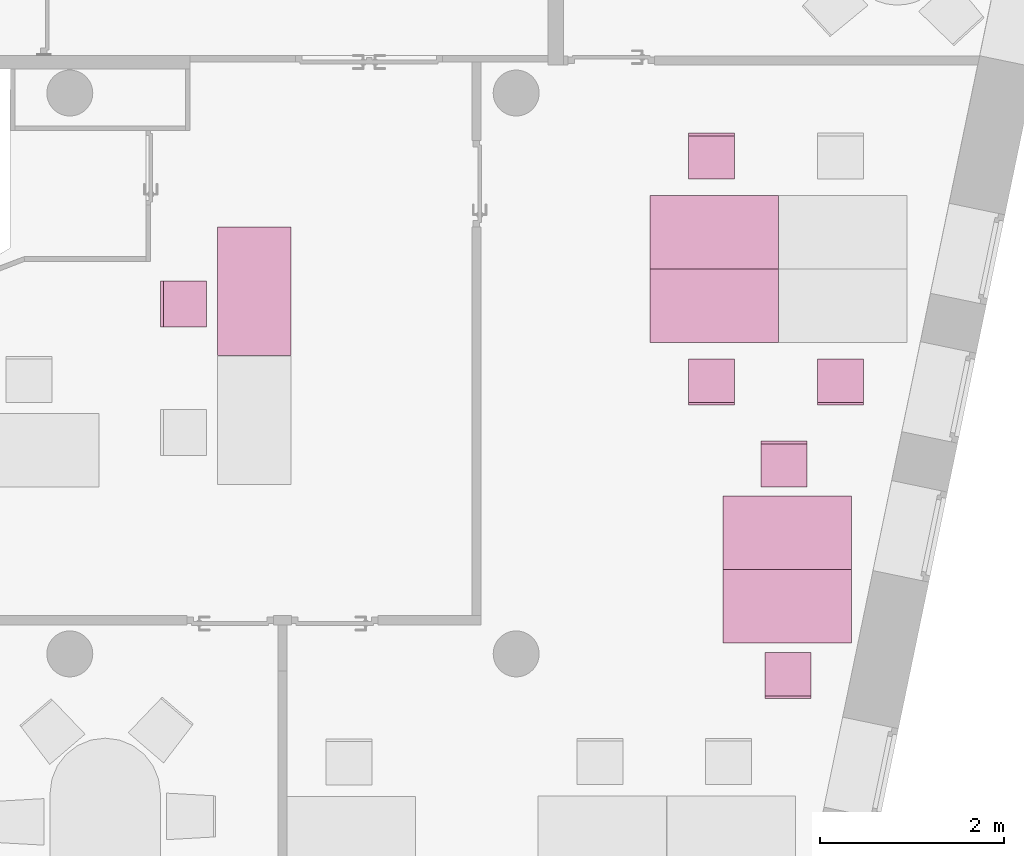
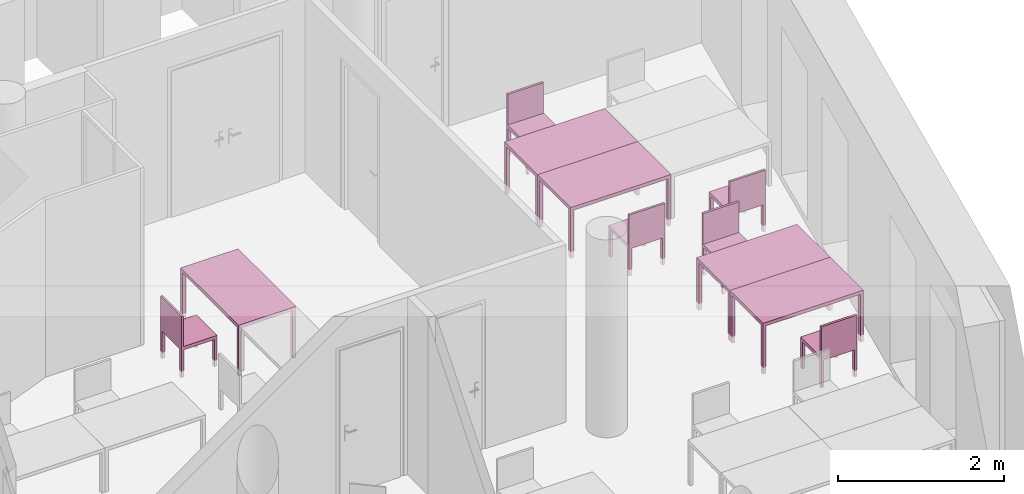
"""IFC4 building model written with IfcOpenShell, lengths in metres."""

from ifc_helpers import new_model, entity, si_unit, converted_unit, derived_unit, frame, origin, place, context, subcontext, project, spatial, faceted_brep, element, save


model = new_model("IFC4")

# Units and contexts
model_context = context("Model", 3, precision=1e-05, world=origin())
body_context = subcontext(model_context, "Body", "Model", "MODEL_VIEW")
ifc_project = project(units=[si_unit("LENGTHUNIT", "METRE"), si_unit("AREAUNIT", "SQUARE_METRE"), si_unit("VOLUMEUNIT", "CUBIC_METRE"), si_unit("MASSUNIT", "GRAM", prefix="KILO"), converted_unit("PLANEANGLEUNIT", "DEGREE", entity("IfcPlaneAngleMeasure", 0.0174532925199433), si_unit("PLANEANGLEUNIT", "RADIAN"), dimensions=[0, 0, 0, 0, 0, 0, 0]), derived_unit("THERMALTRANSMITTANCEUNIT", [(si_unit("POWERUNIT", "WATT"), 1), (si_unit("THERMODYNAMICTEMPERATUREUNIT", "KELVIN"), -1), (si_unit("LENGTHUNIT", "METRE"), -2)]), derived_unit("VOLUMETRICFLOWRATEUNIT", [(si_unit("LENGTHUNIT", "METRE"), 3), (converted_unit("TIMEUNIT", "hour", entity("IfcTimeMeasure", 3600.0), si_unit("TIMEUNIT", "SECOND"), dimensions=[0, 0, 1, 0, 0, 0, 0]), -1), (si_unit("LENGTHUNIT", "METRE"), -1)])], contexts=[model_context])

# Building, storeys
building_placement = place(None, origin())
building = spatial("IfcBuilding", under=ifc_project, at=building_placement, Name="HABITATGE PLURIFAMILIAR", CompositionType="ELEMENT")
storey_1_placement = place(building_placement, frame((0.0, 0.0, 9.26)))
storey_1 = spatial("IfcBuildingStorey", under=building, at=storey_1_placement, Name="PLANTA SEGONA", CompositionType="ELEMENT", Elevation=9.26)
storey_2_placement = place(storey_1_placement, frame((0.0, 0.0, 6.25)))
storey_2 = spatial("IfcBuildingStorey", under=storey_1, at=storey_2_placement, Name="NOU", CompositionType="PARTIAL")

# Furniture
furniture_1_placement = place(storey_2_placement, frame((422.446738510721, 21.1843304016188, -6.3499999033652)))
element("IfcFurniture", 1, at=furniture_1_placement, inside=storey_2, Name="Taula 140X80_P2", context=body_context, shape_type="Brep", body=[
    faceted_brep([(0.04375, 0.750069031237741, 0.0), (0.04375, 0.800069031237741, 0.0), (0.0, 0.800069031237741, 0.0), (0.0, 0.750069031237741, 0.0), (0.04375, 0.800069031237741, 0.7), (0.04375, 0.750069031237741, 0.7), (0.0, 0.750069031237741, 0.7), (0.0, 0.800069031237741, 0.7)], [[[0, 1, 2, 3]], [[4, 5, 6, 7]], [[1, 0, 5, 4]], [[2, 1, 4, 7]], [[3, 2, 7, 6]], [[0, 3, 6, 5]]], orient=[[False], [False], [False], [False], [False], [False]]),
    faceted_brep([(0.04375, 0.0, 0.0), (0.04375, 0.05, 0.0), (0.0, 0.05, 0.0), (0.0, 0.0, 0.0), (0.04375, 0.05, 0.7), (0.04375, 0.0, 0.7), (0.0, 0.0, 0.7), (0.0, 0.05, 0.7)], [[[0, 1, 2, 3]], [[4, 5, 6, 7]], [[1, 0, 5, 4]], [[2, 1, 4, 7]], [[3, 2, 7, 6]], [[0, 3, 6, 5]]], orient=[[False], [False], [False], [False], [False], [False]]),
    faceted_brep([(1.39732768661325, 0.0, 0.7), (1.39732768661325, 0.800069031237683, 0.7), (0.0, 0.800069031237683, 0.7), (0.0, 0.0, 0.7), (1.39732768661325, 0.800069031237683, 0.75), (1.39732768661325, 0.0, 0.75), (0.0, 0.0, 0.75), (0.0, 0.800069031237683, 0.75)], [[[0, 1, 2, 3]], [[4, 5, 6, 7]], [[1, 0, 5, 4]], [[2, 1, 4, 7]], [[3, 2, 7, 6]], [[0, 3, 6, 5]]], orient=[[False], [False], [False], [False], [False], [False]]),
    faceted_brep([(1.39732768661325, 0.750069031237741, 0.0), (1.39732768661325, 0.800069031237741, 0.0), (1.35357768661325, 0.800069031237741, 0.0), (1.35357768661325, 0.750069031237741, 0.0), (1.39732768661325, 0.800069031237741, 0.7), (1.39732768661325, 0.750069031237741, 0.7), (1.35357768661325, 0.750069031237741, 0.7), (1.35357768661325, 0.800069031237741, 0.7)], [[[0, 1, 2, 3]], [[4, 5, 6, 7]], [[1, 0, 5, 4]], [[2, 1, 4, 7]], [[3, 2, 7, 6]], [[0, 3, 6, 5]]], orient=[[False], [False], [False], [False], [False], [False]]),
    faceted_brep([(1.39732768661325, 0.0, 0.0), (1.39732768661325, 0.05, 0.0), (1.35357768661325, 0.05, 0.0), (1.35357768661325, 0.0, 0.0), (1.39732768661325, 0.05, 0.7), (1.39732768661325, 0.0, 0.7), (1.35357768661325, 0.0, 0.7), (1.35357768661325, 0.05, 0.7)], [[[0, 1, 2, 3]], [[4, 5, 6, 7]], [[1, 0, 5, 4]], [[2, 1, 4, 7]], [[3, 2, 7, 6]], [[0, 3, 6, 5]]], orient=[[False], [False], [False], [False], [False], [False]]),
])
furniture_2_placement = place(storey_2_placement, frame((422.446738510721, 21.9843994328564, -6.3499999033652)))
element("IfcFurniture", 2, at=furniture_2_placement, inside=storey_2, Name="Taula 140X80_P2", context=body_context, shape_type="Brep", body=[
    faceted_brep([(0.04375, 0.05, 0.0), (0.0, 0.05, 0.0), (0.0, 0.0, 0.0), (0.04375, 0.0, 0.0), (0.04375, 0.0, 0.7), (0.0, 0.0, 0.7), (0.0, 0.05, 0.7), (0.04375, 0.05, 0.7)], [[[0, 1, 2, 3]], [[4, 5, 6, 7]], [[3, 4, 7, 0]], [[2, 5, 4, 3]], [[1, 6, 5, 2]], [[0, 7, 6, 1]]], orient=[[False], [False], [False], [False], [False], [False]]),
    faceted_brep([(0.04375, 0.800069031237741, 0.0), (0.0, 0.800069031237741, 0.0), (0.0, 0.750069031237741, 0.0), (0.04375, 0.750069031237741, 0.0), (0.04375, 0.750069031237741, 0.7), (0.0, 0.750069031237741, 0.7), (0.0, 0.800069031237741, 0.7), (0.04375, 0.800069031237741, 0.7)], [[[0, 1, 2, 3]], [[4, 5, 6, 7]], [[3, 4, 7, 0]], [[2, 5, 4, 3]], [[1, 6, 5, 2]], [[0, 7, 6, 1]]], orient=[[False], [False], [False], [False], [False], [False]]),
    faceted_brep([(1.39732768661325, 0.800069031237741, 0.7), (0.0, 0.800069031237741, 0.7), (0.0, 0.0, 0.7), (1.39732768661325, 0.0, 0.7), (1.39732768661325, 0.0, 0.75), (0.0, 0.0, 0.75), (0.0, 0.800069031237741, 0.75), (1.39732768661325, 0.800069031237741, 0.75)], [[[0, 1, 2, 3]], [[4, 5, 6, 7]], [[3, 4, 7, 0]], [[2, 5, 4, 3]], [[1, 6, 5, 2]], [[0, 7, 6, 1]]], orient=[[False], [False], [False], [False], [False], [False]]),
    faceted_brep([(1.39732768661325, 0.05, 0.0), (1.35357768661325, 0.05, 0.0), (1.35357768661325, 0.0, 0.0), (1.39732768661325, 0.0, 0.0), (1.39732768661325, 0.0, 0.7), (1.35357768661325, 0.0, 0.7), (1.35357768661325, 0.05, 0.7), (1.39732768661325, 0.05, 0.7)], [[[0, 1, 2, 3]], [[4, 5, 6, 7]], [[3, 4, 7, 0]], [[2, 5, 4, 3]], [[1, 6, 5, 2]], [[0, 7, 6, 1]]], orient=[[False], [False], [False], [False], [False], [False]]),
    faceted_brep([(1.39732768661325, 0.800069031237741, 0.0), (1.35357768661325, 0.800069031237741, 0.0), (1.35357768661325, 0.750069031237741, 0.0), (1.39732768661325, 0.750069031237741, 0.0), (1.39732768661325, 0.750069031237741, 0.7), (1.35357768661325, 0.750069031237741, 0.7), (1.35357768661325, 0.800069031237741, 0.7), (1.39732768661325, 0.800069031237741, 0.7)], [[[0, 1, 2, 3]], [[4, 5, 6, 7]], [[3, 4, 7, 0]], [[2, 5, 4, 3]], [[1, 6, 5, 2]], [[0, 7, 6, 1]]], orient=[[False], [False], [False], [False], [False], [False]]),
])
furniture_3_placement = place(storey_2_placement, frame((422.868725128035, 22.9635842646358, -6.34505686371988)))
element("IfcFurniture", 3, at=furniture_3_placement, inside=storey_2, Name="Cadira d'Oficina_P2", context=body_context, shape_type="Brep", body=[
    faceted_brep([(0.5, 0.0, 0.4), (0.5, 0.500000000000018, 0.4), (0.0, 0.5, 0.4), (0.0, 0.0, 0.4), (0.5, 0.500000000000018, 0.45), (0.5, 0.0, 0.45), (0.0, 0.0, 0.45), (0.0, 0.5, 0.45)], [[[0, 1, 2, 3]], [[4, 5, 6, 7]], [[1, 0, 5, 4]], [[2, 1, 4, 7]], [[3, 2, 7, 6]], [[0, 3, 6, 5]]], orient=[[False], [False], [False], [False], [False], [False]]),
    faceted_brep([(0.0, 0.46, 0.0), (0.04, 0.46, 0.0), (0.04, 0.5, 0.0), (0.0, 0.5, 0.0), (0.04, 0.46, 0.4), (0.0, 0.46, 0.4), (0.0, 0.5, 0.4), (0.04, 0.5, 0.4)], [[[0, 1, 2, 3]], [[4, 5, 6, 7]], [[1, 0, 5, 4]], [[2, 1, 4, 7]], [[3, 2, 7, 6]], [[0, 3, 6, 5]]], orient=[[False], [False], [False], [False], [False], [False]]),
    faceted_brep([(0.0, 0.0, 0.0), (0.04, 0.0, 0.0), (0.04, 0.04, 0.0), (0.0, 0.04, 0.0), (0.04, 0.0, 0.4), (0.0, 0.0, 0.4), (0.0, 0.04, 0.4), (0.04, 0.04, 0.4)], [[[0, 1, 2, 3]], [[4, 5, 6, 7]], [[1, 0, 5, 4]], [[2, 1, 4, 7]], [[3, 2, 7, 6]], [[0, 3, 6, 5]]], orient=[[False], [False], [False], [False], [False], [False]]),
    faceted_brep([(0.46, 0.460000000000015, 0.0), (0.5, 0.460000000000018, 0.0), (0.5, 0.500000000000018, 0.0), (0.46, 0.500000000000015, 0.0), (0.5, 0.460000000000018, 0.4), (0.46, 0.460000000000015, 0.4), (0.46, 0.500000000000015, 0.4), (0.5, 0.500000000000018, 0.4)], [[[0, 1, 2, 3]], [[4, 5, 6, 7]], [[1, 0, 5, 4]], [[2, 1, 4, 7]], [[3, 2, 7, 6]], [[0, 3, 6, 5]]], orient=[[False], [False], [False], [False], [False], [False]]),
    faceted_brep([(0.46, 0.0, 0.0), (0.5, 0.0, 0.0), (0.5, 0.0400000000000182, 0.0), (0.46, 0.0400000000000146, 0.0), (0.5, 0.0, 0.4), (0.46, 0.0, 0.4), (0.46, 0.0400000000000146, 0.4), (0.5, 0.0400000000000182, 0.4)], [[[0, 1, 2, 3]], [[4, 5, 6, 7]], [[1, 0, 5, 4]], [[2, 1, 4, 7]], [[3, 2, 7, 6]], [[0, 3, 6, 5]]], orient=[[False], [False], [False], [False], [False], [False]]),
    faceted_brep([(0.0, 0.47, 0.45), (0.5, 0.470000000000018, 0.45), (0.5, 0.500000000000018, 0.45), (0.0, 0.5, 0.45), (0.5, 0.470000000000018, 0.9), (0.0, 0.47, 0.9), (0.0, 0.5, 0.9), (0.5, 0.500000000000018, 0.9)], [[[0, 1, 2, 3]], [[4, 5, 6, 7]], [[1, 0, 5, 4]], [[2, 1, 4, 7]], [[3, 2, 7, 6]], [[0, 3, 6, 5]]], orient=[[False], [False], [False], [False], [False], [False]]),
])
furniture_4_placement = place(storey_2_placement, frame((424.268725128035, 20.5052146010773, -6.34632642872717)))
element("IfcFurniture", 4, at=furniture_4_placement, inside=storey_2, Name="Cadira d'Oficina_P2", context=body_context, shape_type="Brep", body=[
    faceted_brep([(0.5, 0.5, 0.4), (0.0, 0.5, 0.4), (0.0, 0.0, 0.4), (0.5, 0.0, 0.4), (0.5, 0.0, 0.45), (0.0, 0.0, 0.45), (0.0, 0.5, 0.45), (0.5, 0.5, 0.45)], [[[0, 1, 2, 3]], [[4, 5, 6, 7]], [[3, 4, 7, 0]], [[2, 5, 4, 3]], [[1, 6, 5, 2]], [[0, 7, 6, 1]]], orient=[[False], [False], [False], [False], [False], [False]]),
    faceted_brep([(0.0, 0.04, 0.0), (0.0, 0.0, 0.0), (0.04, 0.0, 0.0), (0.04, 0.04, 0.0), (0.04, 0.04, 0.4), (0.04, 0.0, 0.4), (0.0, 0.0, 0.4), (0.0, 0.04, 0.4)], [[[0, 1, 2, 3]], [[4, 5, 6, 7]], [[3, 4, 7, 0]], [[2, 5, 4, 3]], [[1, 6, 5, 2]], [[0, 7, 6, 1]]], orient=[[False], [False], [False], [False], [False], [False]]),
    faceted_brep([(0.0, 0.5, 0.0), (0.0, 0.46, 0.0), (0.04, 0.46, 0.0), (0.04, 0.5, 0.0), (0.04, 0.5, 0.4), (0.04, 0.46, 0.4), (0.0, 0.46, 0.4), (0.0, 0.5, 0.4)], [[[0, 1, 2, 3]], [[4, 5, 6, 7]], [[3, 4, 7, 0]], [[2, 5, 4, 3]], [[1, 6, 5, 2]], [[0, 7, 6, 1]]], orient=[[False], [False], [False], [False], [False], [False]]),
    faceted_brep([(0.46, 0.04, 0.0), (0.46, 0.0, 0.0), (0.5, 0.0, 0.0), (0.5, 0.04, 0.0), (0.5, 0.04, 0.4), (0.5, 0.0, 0.4), (0.46, 0.0, 0.4), (0.46, 0.04, 0.4)], [[[0, 1, 2, 3]], [[4, 5, 6, 7]], [[3, 4, 7, 0]], [[2, 5, 4, 3]], [[1, 6, 5, 2]], [[0, 7, 6, 1]]], orient=[[False], [False], [False], [False], [False], [False]]),
    faceted_brep([(0.46, 0.5, 0.0), (0.46, 0.46, 0.0), (0.5, 0.46, 0.0), (0.5, 0.5, 0.0), (0.5, 0.5, 0.4), (0.5, 0.46, 0.4), (0.46, 0.46, 0.4), (0.46, 0.5, 0.4)], [[[0, 1, 2, 3]], [[4, 5, 6, 7]], [[3, 4, 7, 0]], [[2, 5, 4, 3]], [[1, 6, 5, 2]], [[0, 7, 6, 1]]], orient=[[False], [False], [False], [False], [False], [False]]),
    faceted_brep([(0.0, 0.03, 0.45), (0.0, 0.0, 0.45), (0.5, 0.0, 0.45), (0.5, 0.03, 0.45), (0.5, 0.03, 0.9), (0.5, 0.0, 0.9), (0.0, 0.0, 0.9), (0.0, 0.03, 0.9)], [[[0, 1, 2, 3]], [[4, 5, 6, 7]], [[3, 4, 7, 0]], [[2, 5, 4, 3]], [[1, 6, 5, 2]], [[0, 7, 6, 1]]], orient=[[False], [False], [False], [False], [False], [False]]),
])
furniture_5_placement = place(storey_2_placement, frame((422.868725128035, 20.5052146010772, -6.34632642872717)))
element("IfcFurniture", 5, at=furniture_5_placement, inside=storey_2, Name="Cadira d'Oficina_P2", context=body_context, shape_type="Brep", body=[
    faceted_brep([(0.5, 0.5, 0.4), (0.0, 0.5, 0.4), (0.0, 0.0, 0.4), (0.5, 0.0, 0.4), (0.5, 0.0, 0.45), (0.0, 0.0, 0.45), (0.0, 0.5, 0.45), (0.5, 0.5, 0.45)], [[[0, 1, 2, 3]], [[4, 5, 6, 7]], [[3, 4, 7, 0]], [[2, 5, 4, 3]], [[1, 6, 5, 2]], [[0, 7, 6, 1]]], orient=[[False], [False], [False], [False], [False], [False]]),
    faceted_brep([(0.0, 0.04, 0.0), (0.0, 0.0, 0.0), (0.04, 0.0, 0.0), (0.04, 0.04, 0.0), (0.04, 0.04, 0.4), (0.04, 0.0, 0.4), (0.0, 0.0, 0.4), (0.0, 0.04, 0.4)], [[[0, 1, 2, 3]], [[4, 5, 6, 7]], [[3, 4, 7, 0]], [[2, 5, 4, 3]], [[1, 6, 5, 2]], [[0, 7, 6, 1]]], orient=[[False], [False], [False], [False], [False], [False]]),
    faceted_brep([(0.0, 0.5, 0.0), (0.0, 0.46, 0.0), (0.04, 0.46, 0.0), (0.04, 0.5, 0.0), (0.04, 0.5, 0.4), (0.04, 0.46, 0.4), (0.0, 0.46, 0.4), (0.0, 0.5, 0.4)], [[[0, 1, 2, 3]], [[4, 5, 6, 7]], [[3, 4, 7, 0]], [[2, 5, 4, 3]], [[1, 6, 5, 2]], [[0, 7, 6, 1]]], orient=[[False], [False], [False], [False], [False], [False]]),
    faceted_brep([(0.46, 0.04, 0.0), (0.46, 0.0, 0.0), (0.5, 0.0, 0.0), (0.5, 0.04, 0.0), (0.5, 0.04, 0.4), (0.5, 0.0, 0.4), (0.46, 0.0, 0.4), (0.46, 0.04, 0.4)], [[[0, 1, 2, 3]], [[4, 5, 6, 7]], [[3, 4, 7, 0]], [[2, 5, 4, 3]], [[1, 6, 5, 2]], [[0, 7, 6, 1]]], orient=[[False], [False], [False], [False], [False], [False]]),
    faceted_brep([(0.46, 0.5, 0.0), (0.46, 0.46, 0.0), (0.5, 0.46, 0.0), (0.5, 0.5, 0.0), (0.5, 0.5, 0.4), (0.5, 0.46, 0.4), (0.46, 0.46, 0.4), (0.46, 0.5, 0.4)], [[[0, 1, 2, 3]], [[4, 5, 6, 7]], [[3, 4, 7, 0]], [[2, 5, 4, 3]], [[1, 6, 5, 2]], [[0, 7, 6, 1]]], orient=[[False], [False], [False], [False], [False], [False]]),
    faceted_brep([(0.0, 0.03, 0.45), (0.0, 0.0, 0.45), (0.5, 0.0, 0.45), (0.5, 0.03, 0.45), (0.5, 0.03, 0.9), (0.5, 0.0, 0.9), (0.0, 0.0, 0.9), (0.0, 0.03, 0.9)], [[[0, 1, 2, 3]], [[4, 5, 6, 7]], [[3, 4, 7, 0]], [[2, 5, 4, 3]], [[1, 6, 5, 2]], [[0, 7, 6, 1]]], orient=[[False], [False], [False], [False], [False], [False]]),
])
furniture_6_placement = place(storey_2_placement, frame((423.239102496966, 18.7193335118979, -6.3499999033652)))
element("IfcFurniture", 6, at=furniture_6_placement, inside=storey_2, Name="Taula 140X80_P2", context=body_context, shape_type="Brep", body=[
    faceted_brep([(0.04375, 0.05, 0.0), (0.0, 0.05, 0.0), (0.0, 0.0, 0.0), (0.04375, 0.0, 0.0), (0.04375, 0.0, 0.7), (0.0, 0.0, 0.7), (0.0, 0.05, 0.7), (0.04375, 0.05, 0.7)], [[[0, 1, 2, 3]], [[4, 5, 6, 7]], [[3, 4, 7, 0]], [[2, 5, 4, 3]], [[1, 6, 5, 2]], [[0, 7, 6, 1]]], orient=[[False], [False], [False], [False], [False], [False]]),
    faceted_brep([(0.04375, 0.800069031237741, 0.0), (0.0, 0.800069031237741, 0.0), (0.0, 0.750069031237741, 0.0), (0.04375, 0.750069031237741, 0.0), (0.04375, 0.750069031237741, 0.7), (0.0, 0.750069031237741, 0.7), (0.0, 0.800069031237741, 0.7), (0.04375, 0.800069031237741, 0.7)], [[[0, 1, 2, 3]], [[4, 5, 6, 7]], [[3, 4, 7, 0]], [[2, 5, 4, 3]], [[1, 6, 5, 2]], [[0, 7, 6, 1]]], orient=[[False], [False], [False], [False], [False], [False]]),
    faceted_brep([(1.39732768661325, 0.800069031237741, 0.7), (0.0, 0.800069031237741, 0.7), (0.0, 0.0, 0.7), (1.39732768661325, 0.0, 0.7), (1.39732768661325, 0.0, 0.75), (0.0, 0.0, 0.75), (0.0, 0.800069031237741, 0.75), (1.39732768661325, 0.800069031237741, 0.75)], [[[0, 1, 2, 3]], [[4, 5, 6, 7]], [[3, 4, 7, 0]], [[2, 5, 4, 3]], [[1, 6, 5, 2]], [[0, 7, 6, 1]]], orient=[[False], [False], [False], [False], [False], [False]]),
    faceted_brep([(1.39732768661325, 0.05, 0.0), (1.35357768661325, 0.05, 0.0), (1.35357768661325, 0.0, 0.0), (1.39732768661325, 0.0, 0.0), (1.39732768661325, 0.0, 0.7), (1.35357768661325, 0.0, 0.7), (1.35357768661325, 0.05, 0.7), (1.39732768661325, 0.05, 0.7)], [[[0, 1, 2, 3]], [[4, 5, 6, 7]], [[3, 4, 7, 0]], [[2, 5, 4, 3]], [[1, 6, 5, 2]], [[0, 7, 6, 1]]], orient=[[False], [False], [False], [False], [False], [False]]),
    faceted_brep([(1.39732768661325, 0.800069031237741, 0.0), (1.35357768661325, 0.800069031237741, 0.0), (1.35357768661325, 0.750069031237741, 0.0), (1.39732768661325, 0.750069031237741, 0.0), (1.39732768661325, 0.750069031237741, 0.7), (1.35357768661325, 0.750069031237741, 0.7), (1.35357768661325, 0.800069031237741, 0.7), (1.39732768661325, 0.800069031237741, 0.7)], [[[0, 1, 2, 3]], [[4, 5, 6, 7]], [[3, 4, 7, 0]], [[2, 5, 4, 3]], [[1, 6, 5, 2]], [[0, 7, 6, 1]]], orient=[[False], [False], [False], [False], [False], [False]]),
])
furniture_7_placement = place(storey_2_placement, frame((423.239102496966, 17.9192644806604, -6.3499999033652)))
element("IfcFurniture", 7, at=furniture_7_placement, inside=storey_2, Name="Taula 140X80_P2", context=body_context, shape_type="Brep", body=[
    faceted_brep([(0.04375, 0.750069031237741, 0.0), (0.04375, 0.800069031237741, 0.0), (0.0, 0.800069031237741, 0.0), (0.0, 0.750069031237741, 0.0), (0.04375, 0.800069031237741, 0.7), (0.04375, 0.750069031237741, 0.7), (0.0, 0.750069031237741, 0.7), (0.0, 0.800069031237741, 0.7)], [[[0, 1, 2, 3]], [[4, 5, 6, 7]], [[1, 0, 5, 4]], [[2, 1, 4, 7]], [[3, 2, 7, 6]], [[0, 3, 6, 5]]], orient=[[False], [False], [False], [False], [False], [False]]),
    faceted_brep([(0.04375, 0.0, 0.0), (0.04375, 0.05, 0.0), (0.0, 0.05, 0.0), (0.0, 0.0, 0.0), (0.04375, 0.05, 0.7), (0.04375, 0.0, 0.7), (0.0, 0.0, 0.7), (0.0, 0.05, 0.7)], [[[0, 1, 2, 3]], [[4, 5, 6, 7]], [[1, 0, 5, 4]], [[2, 1, 4, 7]], [[3, 2, 7, 6]], [[0, 3, 6, 5]]], orient=[[False], [False], [False], [False], [False], [False]]),
    faceted_brep([(1.39732768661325, 0.0, 0.7), (1.39732768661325, 0.800069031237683, 0.7), (0.0, 0.800069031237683, 0.7), (0.0, 0.0, 0.7), (1.39732768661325, 0.800069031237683, 0.75), (1.39732768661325, 0.0, 0.75), (0.0, 0.0, 0.75), (0.0, 0.800069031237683, 0.75)], [[[0, 1, 2, 3]], [[4, 5, 6, 7]], [[1, 0, 5, 4]], [[2, 1, 4, 7]], [[3, 2, 7, 6]], [[0, 3, 6, 5]]], orient=[[False], [False], [False], [False], [False], [False]]),
    faceted_brep([(1.39732768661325, 0.750069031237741, 0.0), (1.39732768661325, 0.800069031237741, 0.0), (1.35357768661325, 0.800069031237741, 0.0), (1.35357768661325, 0.750069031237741, 0.0), (1.39732768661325, 0.800069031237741, 0.7), (1.39732768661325, 0.750069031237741, 0.7), (1.35357768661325, 0.750069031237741, 0.7), (1.35357768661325, 0.800069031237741, 0.7)], [[[0, 1, 2, 3]], [[4, 5, 6, 7]], [[1, 0, 5, 4]], [[2, 1, 4, 7]], [[3, 2, 7, 6]], [[0, 3, 6, 5]]], orient=[[False], [False], [False], [False], [False], [False]]),
    faceted_brep([(1.39732768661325, 0.0, 0.0), (1.39732768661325, 0.05, 0.0), (1.35357768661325, 0.05, 0.0), (1.35357768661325, 0.0, 0.0), (1.39732768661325, 0.05, 0.7), (1.39732768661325, 0.0, 0.7), (1.35357768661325, 0.0, 0.7), (1.35357768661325, 0.05, 0.7)], [[[0, 1, 2, 3]], [[4, 5, 6, 7]], [[1, 0, 5, 4]], [[2, 1, 4, 7]], [[3, 2, 7, 6]], [[0, 3, 6, 5]]], orient=[[False], [False], [False], [False], [False], [False]]),
])
furniture_8_placement = place(storey_2_placement, frame((423.655717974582, 19.6147382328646, -6.34505686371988)))
element("IfcFurniture", 8, at=furniture_8_placement, inside=storey_2, Name="Cadira d'Oficina_P2", context=body_context, shape_type="Brep", body=[
    faceted_brep([(0.5, 0.0, 0.4), (0.5, 0.500000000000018, 0.4), (0.0, 0.5, 0.4), (0.0, 0.0, 0.4), (0.5, 0.500000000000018, 0.45), (0.5, 0.0, 0.45), (0.0, 0.0, 0.45), (0.0, 0.5, 0.45)], [[[0, 1, 2, 3]], [[4, 5, 6, 7]], [[1, 0, 5, 4]], [[2, 1, 4, 7]], [[3, 2, 7, 6]], [[0, 3, 6, 5]]], orient=[[False], [False], [False], [False], [False], [False]]),
    faceted_brep([(0.0, 0.46, 0.0), (0.04, 0.46, 0.0), (0.04, 0.5, 0.0), (0.0, 0.5, 0.0), (0.04, 0.46, 0.4), (0.0, 0.46, 0.4), (0.0, 0.5, 0.4), (0.04, 0.5, 0.4)], [[[0, 1, 2, 3]], [[4, 5, 6, 7]], [[1, 0, 5, 4]], [[2, 1, 4, 7]], [[3, 2, 7, 6]], [[0, 3, 6, 5]]], orient=[[False], [False], [False], [False], [False], [False]]),
    faceted_brep([(0.0, 0.0, 0.0), (0.04, 0.0, 0.0), (0.04, 0.04, 0.0), (0.0, 0.04, 0.0), (0.04, 0.0, 0.4), (0.0, 0.0, 0.4), (0.0, 0.04, 0.4), (0.04, 0.04, 0.4)], [[[0, 1, 2, 3]], [[4, 5, 6, 7]], [[1, 0, 5, 4]], [[2, 1, 4, 7]], [[3, 2, 7, 6]], [[0, 3, 6, 5]]], orient=[[False], [False], [False], [False], [False], [False]]),
    faceted_brep([(0.46, 0.460000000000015, 0.0), (0.5, 0.460000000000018, 0.0), (0.5, 0.500000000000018, 0.0), (0.46, 0.500000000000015, 0.0), (0.5, 0.460000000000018, 0.4), (0.46, 0.460000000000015, 0.4), (0.46, 0.500000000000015, 0.4), (0.5, 0.500000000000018, 0.4)], [[[0, 1, 2, 3]], [[4, 5, 6, 7]], [[1, 0, 5, 4]], [[2, 1, 4, 7]], [[3, 2, 7, 6]], [[0, 3, 6, 5]]], orient=[[False], [False], [False], [False], [False], [False]]),
    faceted_brep([(0.46, 0.0, 0.0), (0.5, 0.0, 0.0), (0.5, 0.0400000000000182, 0.0), (0.46, 0.0400000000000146, 0.0), (0.5, 0.0, 0.4), (0.46, 0.0, 0.4), (0.46, 0.0400000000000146, 0.4), (0.5, 0.0400000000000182, 0.4)], [[[0, 1, 2, 3]], [[4, 5, 6, 7]], [[1, 0, 5, 4]], [[2, 1, 4, 7]], [[3, 2, 7, 6]], [[0, 3, 6, 5]]], orient=[[False], [False], [False], [False], [False], [False]]),
    faceted_brep([(0.0, 0.47, 0.45), (0.5, 0.470000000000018, 0.45), (0.5, 0.500000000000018, 0.45), (0.0, 0.5, 0.45), (0.5, 0.470000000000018, 0.9), (0.0, 0.47, 0.9), (0.0, 0.5, 0.9), (0.5, 0.500000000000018, 0.9)], [[[0, 1, 2, 3]], [[4, 5, 6, 7]], [[1, 0, 5, 4]], [[2, 1, 4, 7]], [[3, 2, 7, 6]], [[0, 3, 6, 5]]], orient=[[False], [False], [False], [False], [False], [False]]),
])
furniture_9_placement = place(storey_2_placement, frame((423.699814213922, 17.3120391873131, -6.34505686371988)))
element("IfcFurniture", 9, at=furniture_9_placement, inside=storey_2, Name="Cadira d'Oficina_P2", context=body_context, shape_type="Brep", body=[
    faceted_brep([(0.5, 0.5, 0.4), (0.0, 0.500000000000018, 0.4), (0.0, 0.0, 0.4), (0.5, 0.0, 0.4), (0.5, 0.0, 0.45), (0.0, 0.0, 0.45), (0.0, 0.500000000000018, 0.45), (0.5, 0.5, 0.45)], [[[0, 1, 2, 3]], [[4, 5, 6, 7]], [[3, 4, 7, 0]], [[2, 5, 4, 3]], [[1, 6, 5, 2]], [[0, 7, 6, 1]]], orient=[[False], [False], [False], [False], [False], [False]]),
    faceted_brep([(0.0, 0.0400000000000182, 0.0), (0.0, 0.0, 0.0), (0.04, 0.0, 0.0), (0.04, 0.0400000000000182, 0.0), (0.04, 0.0400000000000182, 0.4), (0.04, 0.0, 0.4), (0.0, 0.0, 0.4), (0.0, 0.0400000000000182, 0.4)], [[[0, 1, 2, 3]], [[4, 5, 6, 7]], [[3, 4, 7, 0]], [[2, 5, 4, 3]], [[1, 6, 5, 2]], [[0, 7, 6, 1]]], orient=[[False], [False], [False], [False], [False], [False]]),
    faceted_brep([(0.0, 0.500000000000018, 0.0), (0.0, 0.460000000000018, 0.0), (0.04, 0.460000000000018, 0.0), (0.04, 0.500000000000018, 0.0), (0.04, 0.500000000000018, 0.4), (0.04, 0.460000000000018, 0.4), (0.0, 0.460000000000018, 0.4), (0.0, 0.500000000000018, 0.4)], [[[0, 1, 2, 3]], [[4, 5, 6, 7]], [[3, 4, 7, 0]], [[2, 5, 4, 3]], [[1, 6, 5, 2]], [[0, 7, 6, 1]]], orient=[[False], [False], [False], [False], [False], [False]]),
    faceted_brep([(0.46, 0.0400000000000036, 0.0), (0.46, 0.0, 0.0), (0.5, 0.0, 0.0), (0.5, 0.04, 0.0), (0.5, 0.04, 0.4), (0.5, 0.0, 0.4), (0.46, 0.0, 0.4), (0.46, 0.0400000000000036, 0.4)], [[[0, 1, 2, 3]], [[4, 5, 6, 7]], [[3, 4, 7, 0]], [[2, 5, 4, 3]], [[1, 6, 5, 2]], [[0, 7, 6, 1]]], orient=[[False], [False], [False], [False], [False], [False]]),
    faceted_brep([(0.46, 0.500000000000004, 0.0), (0.46, 0.460000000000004, 0.0), (0.5, 0.46, 0.0), (0.5, 0.5, 0.0), (0.5, 0.5, 0.4), (0.5, 0.46, 0.4), (0.46, 0.460000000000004, 0.4), (0.46, 0.500000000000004, 0.4)], [[[0, 1, 2, 3]], [[4, 5, 6, 7]], [[3, 4, 7, 0]], [[2, 5, 4, 3]], [[1, 6, 5, 2]], [[0, 7, 6, 1]]], orient=[[False], [False], [False], [False], [False], [False]]),
    faceted_brep([(0.0, 0.0300000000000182, 0.45), (0.0, 0.0, 0.45), (0.5, 0.0, 0.45), (0.5, 0.03, 0.45), (0.5, 0.03, 0.9), (0.5, 0.0, 0.9), (0.0, 0.0, 0.9), (0.0, 0.0300000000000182, 0.9)], [[[0, 1, 2, 3]], [[4, 5, 6, 7]], [[3, 4, 7, 0]], [[2, 5, 4, 3]], [[1, 6, 5, 2]], [[0, 7, 6, 1]]], orient=[[False], [False], [False], [False], [False], [False]]),
])
furniture_10_placement = place(storey_2_placement, frame((417.742107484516, 21.0438098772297, -6.3499999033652)))
element("IfcFurniture", 10, at=furniture_10_placement, inside=storey_2, Name="Taula 140X80_P2", context=body_context, shape_type="Brep", body=[
    faceted_brep([(0.750069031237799, 1.35357768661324, 0.0), (0.800069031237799, 1.35357768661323, 0.0), (0.800069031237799, 1.39732768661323, 0.0), (0.750069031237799, 1.39732768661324, 0.0), (0.800069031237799, 1.35357768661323, 0.7), (0.750069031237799, 1.35357768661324, 0.7), (0.750069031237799, 1.39732768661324, 0.7), (0.800069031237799, 1.39732768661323, 0.7)], [[[0, 1, 2, 3]], [[4, 5, 6, 7]], [[1, 0, 5, 4]], [[2, 1, 4, 7]], [[3, 2, 7, 6]], [[0, 3, 6, 5]]], orient=[[False], [False], [False], [False], [False], [False]]),
    faceted_brep([(0.0, 1.35357768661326, 0.0), (0.0500000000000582, 1.35357768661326, 0.0), (0.0500000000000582, 1.39732768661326, 0.0), (0.0, 1.39732768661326, 0.0), (0.0500000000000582, 1.35357768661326, 0.7), (0.0, 1.35357768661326, 0.7), (0.0, 1.39732768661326, 0.7), (0.0500000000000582, 1.39732768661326, 0.7)], [[[0, 1, 2, 3]], [[4, 5, 6, 7]], [[1, 0, 5, 4]], [[2, 1, 4, 7]], [[3, 2, 7, 6]], [[0, 3, 6, 5]]], orient=[[False], [False], [False], [False], [False], [False]]),
    faceted_brep([(0.0, 0.0, 0.7), (0.800069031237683, 0.0, 0.7), (0.800069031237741, 1.39732768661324, 0.7), (0.0, 1.39732768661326, 0.7), (0.800069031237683, 0.0, 0.75), (0.0, 0.0, 0.75), (0.0, 1.39732768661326, 0.75), (0.800069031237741, 1.39732768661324, 0.75)], [[[0, 1, 2, 3]], [[4, 5, 6, 7]], [[1, 0, 5, 4]], [[2, 1, 4, 7]], [[3, 2, 7, 6]], [[0, 3, 6, 5]]], orient=[[False], [False], [False], [False], [False], [False]]),
    faceted_brep([(0.750069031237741, 0.0, 0.0), (0.800069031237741, 0.0, 0.0), (0.800069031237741, 0.0437499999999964, 0.0), (0.750069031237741, 0.04375, 0.0), (0.800069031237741, 0.0, 0.7), (0.750069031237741, 0.0, 0.7), (0.750069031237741, 0.04375, 0.7), (0.800069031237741, 0.0437499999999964, 0.7)], [[[0, 1, 2, 3]], [[4, 5, 6, 7]], [[1, 0, 5, 4]], [[2, 1, 4, 7]], [[3, 2, 7, 6]], [[0, 3, 6, 5]]], orient=[[False], [False], [False], [False], [False], [False]]),
    faceted_brep([(0.0, 0.0, 0.0), (0.05, 0.0, 0.0), (0.05, 0.0437500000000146, 0.0), (0.0, 0.0437500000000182, 0.0), (0.05, 0.0, 0.7), (0.0, 0.0, 0.7), (0.0, 0.0437500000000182, 0.7), (0.05, 0.0437500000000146, 0.7)], [[[0, 1, 2, 3]], [[4, 5, 6, 7]], [[1, 0, 5, 4]], [[2, 1, 4, 7]], [[3, 2, 7, 6]], [[0, 3, 6, 5]]], orient=[[False], [False], [False], [False], [False], [False]]),
])
furniture_11_placement = place(storey_2_placement, frame((417.124256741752, 21.3566209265, -6.34505686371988)))
element("IfcFurniture", 11, at=furniture_11_placement, inside=storey_2, Name="Cadira d'Oficina_P2", context=body_context, shape_type="Brep", body=[
    faceted_brep([(0.5, 0.0, 0.4), (0.5, 0.500000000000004, 0.4), (0.0, 0.500000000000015, 0.4), (0.0, 0.0, 0.4), (0.0, 0.0, 0.45), (0.0, 0.500000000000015, 0.45), (0.5, 0.500000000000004, 0.45), (0.5, 0.0, 0.45)], [[[0, 1, 2, 3]], [[4, 5, 6, 7]], [[3, 4, 7, 0]], [[2, 5, 4, 3]], [[1, 6, 5, 2]], [[0, 7, 6, 1]]], orient=[[False], [False], [False], [False], [False], [False]]),
    faceted_brep([(0.04, 0.500000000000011, 0.0), (0.0, 0.500000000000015, 0.0), (0.0, 0.460000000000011, 0.0), (0.04, 0.460000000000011, 0.0), (0.04, 0.460000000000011, 0.4), (0.0, 0.460000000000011, 0.4), (0.0, 0.500000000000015, 0.4), (0.04, 0.500000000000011, 0.4)], [[[0, 1, 2, 3]], [[4, 5, 6, 7]], [[3, 4, 7, 0]], [[2, 5, 4, 3]], [[1, 6, 5, 2]], [[0, 7, 6, 1]]], orient=[[False], [False], [False], [False], [False], [False]]),
    faceted_brep([(0.5, 0.500000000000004, 0.0), (0.46, 0.500000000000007, 0.0), (0.46, 0.460000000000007, 0.0), (0.5, 0.460000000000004, 0.0), (0.5, 0.460000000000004, 0.4), (0.46, 0.460000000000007, 0.4), (0.46, 0.500000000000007, 0.4), (0.5, 0.500000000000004, 0.4)], [[[0, 1, 2, 3]], [[4, 5, 6, 7]], [[3, 4, 7, 0]], [[2, 5, 4, 3]], [[1, 6, 5, 2]], [[0, 7, 6, 1]]], orient=[[False], [False], [False], [False], [False], [False]]),
    faceted_brep([(0.04, 0.0400000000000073, 0.0), (0.0, 0.0400000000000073, 0.0), (0.0, 0.0, 0.0), (0.04, 0.0, 0.0), (0.04, 0.0, 0.4), (0.0, 0.0, 0.4), (0.0, 0.0400000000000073, 0.4), (0.04, 0.0400000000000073, 0.4)], [[[0, 1, 2, 3]], [[4, 5, 6, 7]], [[3, 4, 7, 0]], [[2, 5, 4, 3]], [[1, 6, 5, 2]], [[0, 7, 6, 1]]], orient=[[False], [False], [False], [False], [False], [False]]),
    faceted_brep([(0.5, 0.04, 0.0), (0.46, 0.04, 0.0), (0.46, 0.0, 0.0), (0.5, 0.0, 0.0), (0.5, 0.0, 0.4), (0.46, 0.0, 0.4), (0.46, 0.04, 0.4), (0.5, 0.04, 0.4)], [[[0, 1, 2, 3]], [[4, 5, 6, 7]], [[3, 4, 7, 0]], [[2, 5, 4, 3]], [[1, 6, 5, 2]], [[0, 7, 6, 1]]], orient=[[False], [False], [False], [False], [False], [False]]),
    faceted_brep([(0.03, 0.500000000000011, 0.45), (0.0, 0.500000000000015, 0.45), (0.0, 0.0, 0.45), (0.03, 0.0, 0.45), (0.03, 0.0, 0.9), (0.0, 0.0, 0.9), (0.0, 0.500000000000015, 0.9), (0.03, 0.500000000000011, 0.9)], [[[0, 1, 2, 3]], [[4, 5, 6, 7]], [[3, 4, 7, 0]], [[2, 5, 4, 3]], [[1, 6, 5, 2]], [[0, 7, 6, 1]]], orient=[[False], [False], [False], [False], [False], [False]]),
])

save(model, "model.ifc")
